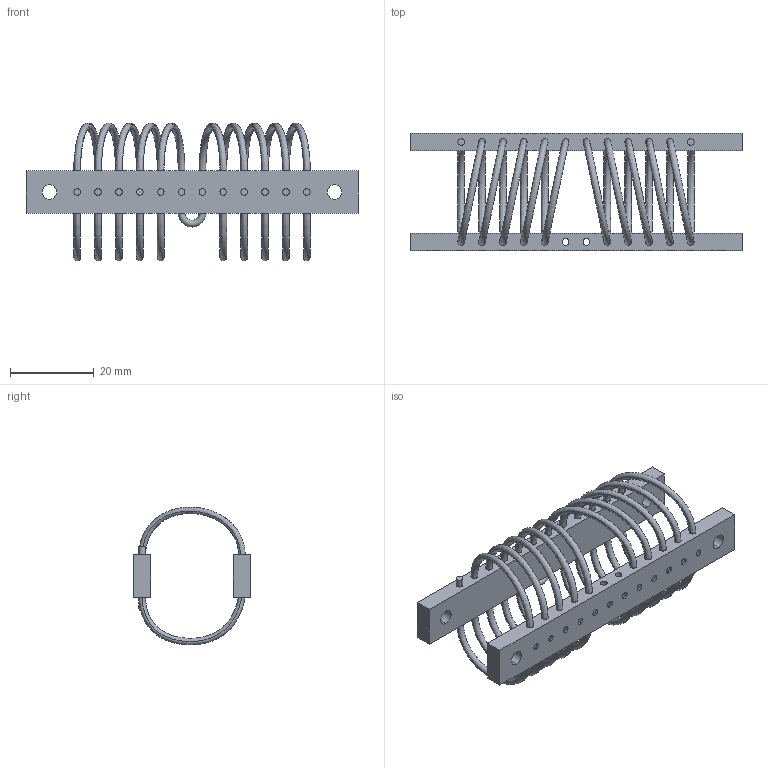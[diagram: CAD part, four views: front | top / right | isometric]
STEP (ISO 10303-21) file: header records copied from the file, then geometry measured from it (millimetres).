
FILE_DESCRIPTION (( 'STEP AP214' ), '1' );
FILE_NAME ('WR2-600-10DM.STEP', '2018-12-07T09:45:03', ( 'user' ), ( 'Microsoft' ), 'SwSTEP 2.0', 'SolidWorks 2016', '' );
FILE_SCHEMA (( 'AUTOMOTIVE_DESIGN' ));
Length unit declared in the file: millimetre
Products named in the file (1): WR2-600-10DM
Bounding box: 79.5 x 28 x 33 mm (x, y, z)
Volume: 7888.2 mm3; surface area: 10886.7 mm2
Topology: 25 solids, 25 shells, 316 faces, 702 edges, 460 vertices
Faces by surface type: cylinder 192, plane 82, bspline 40, torus 2
Entity records: 18902 total; most frequent: CARTESIAN_POINT 11719, ORIENTED_EDGE 1404, DIRECTION 1382, EDGE_CURVE 702, AXIS2_PLACEMENT_3D 583, VERTEX_POINT 460, EDGE_LOOP 396, ADVANCED_FACE 316
